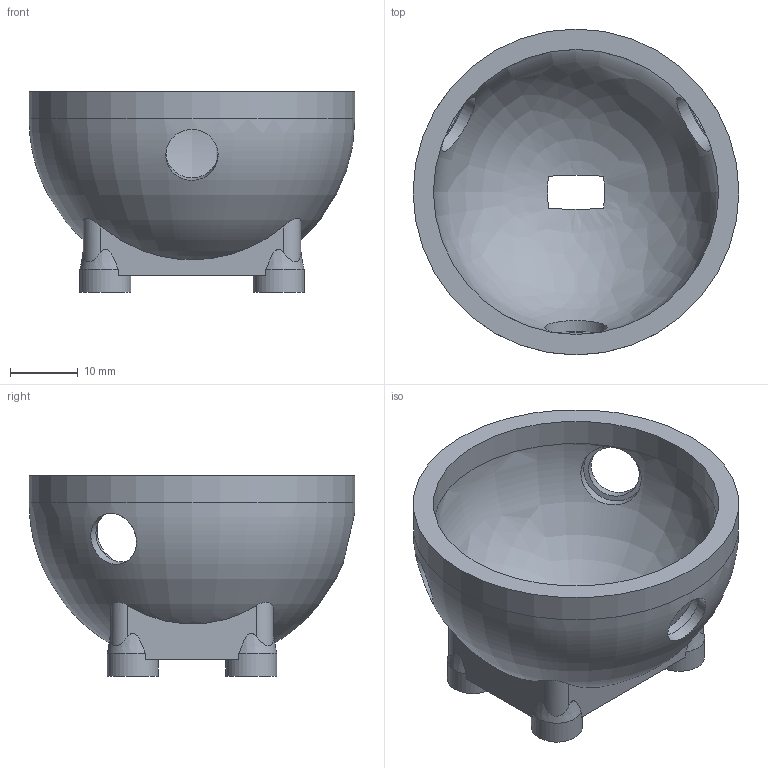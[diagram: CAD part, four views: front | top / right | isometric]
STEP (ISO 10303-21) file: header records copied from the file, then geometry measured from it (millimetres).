
FILE_DESCRIPTION(('Open CASCADE Model'),'2;1');
FILE_NAME('Open CASCADE Shape Model','2026-05-31T19:43:10',('Author'),( 'Open CASCADE'),'Open CASCADE STEP processor 7.6','Open CASCADE 7.6' ,'Unknown');
FILE_SCHEMA(('AP242_MANAGED_MODEL_BASED_3D_ENGINEERING_MIM_LF. {1 0 10303 442 1 1 4 }'));
Length unit declared in the file: millimetre
Products named in the file (1): Open CASCADE STEP translator 7.6 10
Bounding box: 48 x 48 x 29.6 mm (x, y, z)
Volume: 12388.3 mm3; surface area: 8897.2 mm2
Topology: 1 solids, 1 shells, 56 faces, 138 edges, 92 vertices
Faces by surface type: cylinder 24, plane 22, bspline 4, cone 4, revolution 2
Full cylindrical faces by diameter (mm): 3.5 x4, 7.5 x4, 7.7 x3, 9.2 x3, 42 x1, 48 x1
Entity records: 8030 total; most frequent: CARTESIAN_POINT 5323, DIRECTION 474, ORIENTED_EDGE 276, PCURVE 276, DEFINITIONAL_REPRESENTATION 276, LINE 230, VECTOR 230, EDGE_CURVE 138
